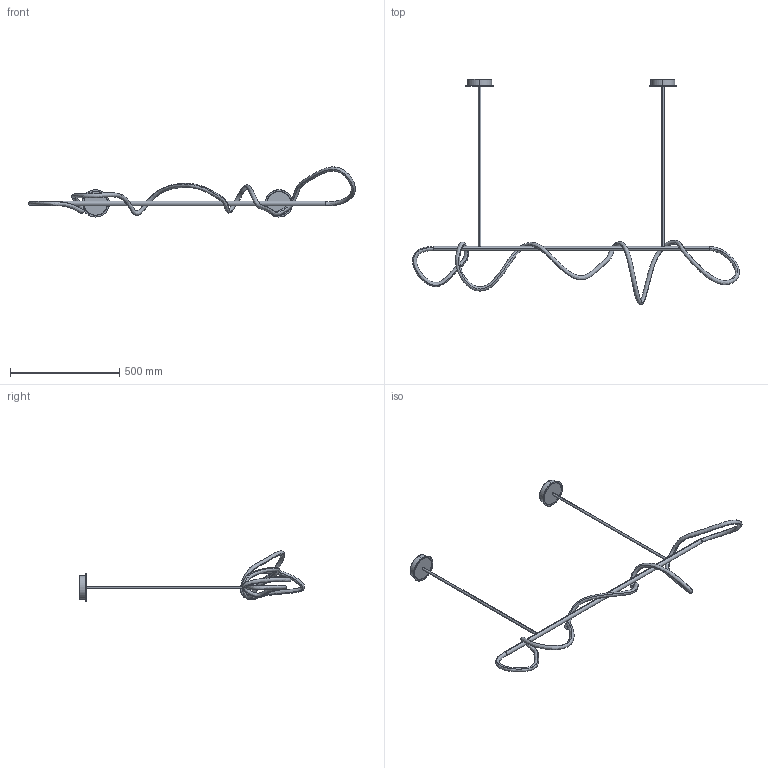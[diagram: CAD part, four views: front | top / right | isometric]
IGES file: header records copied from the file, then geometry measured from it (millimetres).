
Start section: SolidWorks IGES file using analytic representation for surfaces
Global section: file name: F:\燠隴矨\3D\2024-9堎\Flexible Linear Curve Chandelier-L150CM.IGS; native system: SolidWorks 2022; preprocessor: SolidWorks 2022; author: MyPC; date: 240911.085545; units: millimetre
Bounding box: 1497.68 x 1032.2 x 229.65 mm (x, y, z)
Surface area: 458443.1 mm2 (no closed solid volume)
Topology: 0 solids, 0 shells, 38 faces, 1104 edges, 1104 vertices
Faces by surface type: bspline 20, revolution 18
